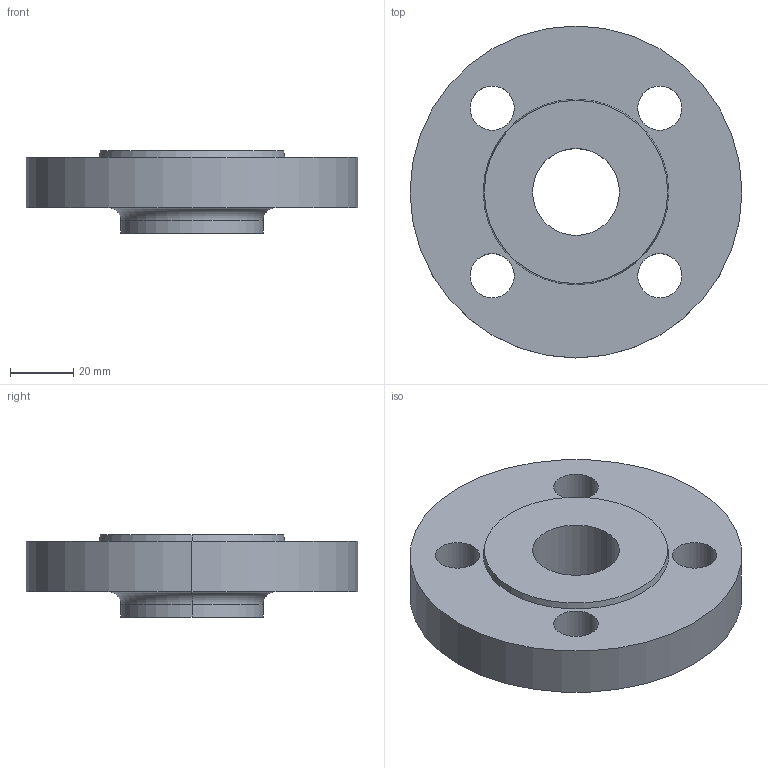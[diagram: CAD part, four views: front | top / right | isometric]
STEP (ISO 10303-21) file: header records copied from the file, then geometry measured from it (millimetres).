
FILE_DESCRIPTION (( 'STEP AP214' ), '1' );
FILE_NAME ('PN40 DN20 Type 12 - Type B Face.STEP', '2018-12-29T18:17:30', ( '' ), ( '' ), 'SwSTEP 2.0', 'SolidWorks 2019', '' );
FILE_SCHEMA (( 'AUTOMOTIVE_DESIGN' ));
Length unit declared in the file: millimetre
Products named in the file (1): PN40 DN20 Type 12 - Type B Face
Bounding box: 105 x 105 x 26 mm (x, y, z)
Volume: 131826.1 mm3; surface area: 26440.6 mm2
Topology: 1 solids, 1 shells, 22 faces, 52 edges, 34 vertices
Faces by surface type: cylinder 14, plane 4, torus 2, cone 2
Entity records: 710 total; most frequent: DIRECTION 134, CARTESIAN_POINT 109, ORIENTED_EDGE 104, AXIS2_PLACEMENT_3D 59, EDGE_CURVE 52, CIRCLE 36, VERTEX_POINT 34, EDGE_LOOP 34
